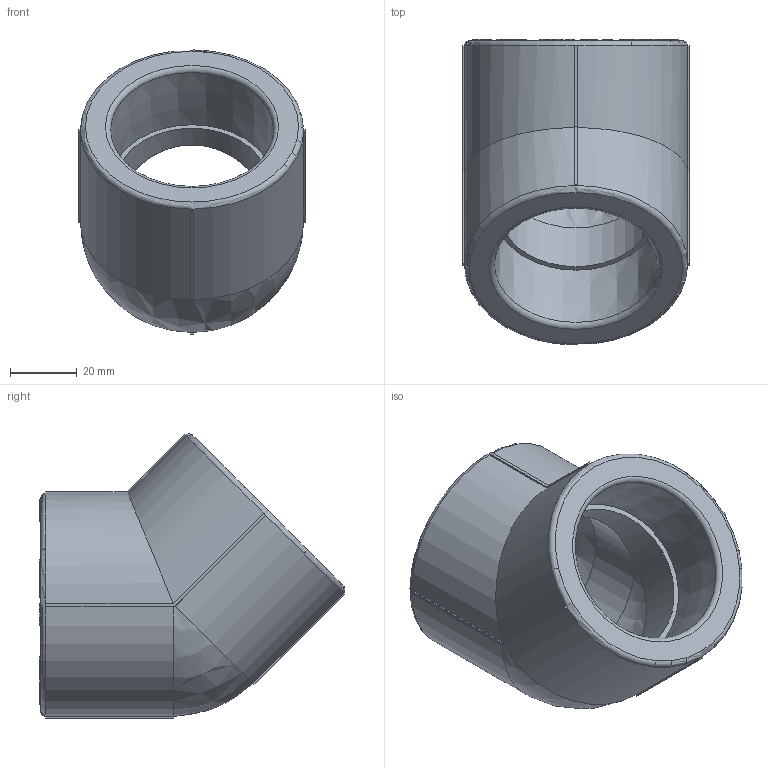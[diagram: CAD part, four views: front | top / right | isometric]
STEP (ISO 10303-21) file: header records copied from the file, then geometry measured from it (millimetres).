
FILE_DESCRIPTION(('STEP AP203'), '1');
FILE_NAME('ÂÐ.752216.013 - VTp.759.0.050', '', ('UNSPECIFIED'), ('UNSPECIFIED'), 'C3D Converter', 'C3D Toolkit', '');
FILE_SCHEMA(('CONFIG_CONTROL_DESIGN'));
Length unit declared in the file: millimetre
Products named in the file (1): ВР.752216.013
Bounding box: 68 x 91.84 x 85.34 mm (x, y, z)
Volume: 139347.6 mm3; surface area: 32371.6 mm2
Topology: 1 solids, 1 shells, 574 faces, 1596 edges, 1054 vertices
Faces by surface type: extrusion 313, plane 243, cylinder 10, torus 4, cone 2, sphere 2
Full cylindrical faces by diameter (mm): 45.6 x2
Entity records: 18600 total; most frequent: CARTESIAN_POINT 5102, ORIENTED_EDGE 3172, DIRECTION 1834, EDGE_CURVE 1586, VECTOR 1230, VERTEX_POINT 1054, B_SPLINE_CURVE_WITH_KNOTS 939, LINE 917
